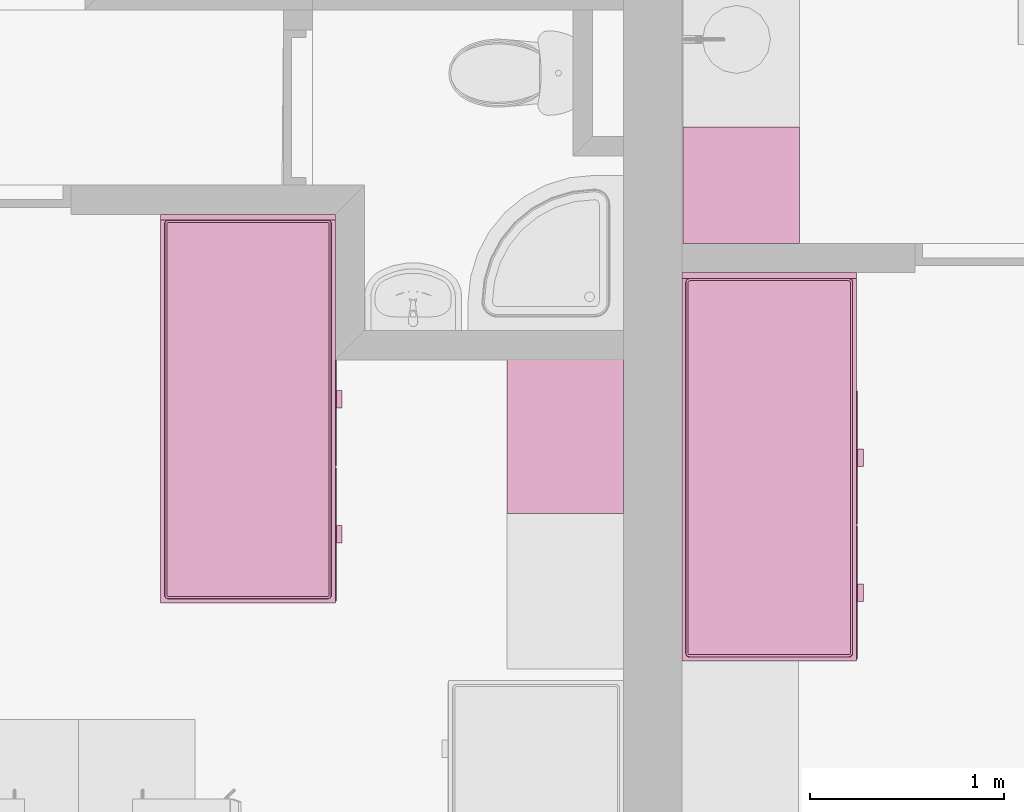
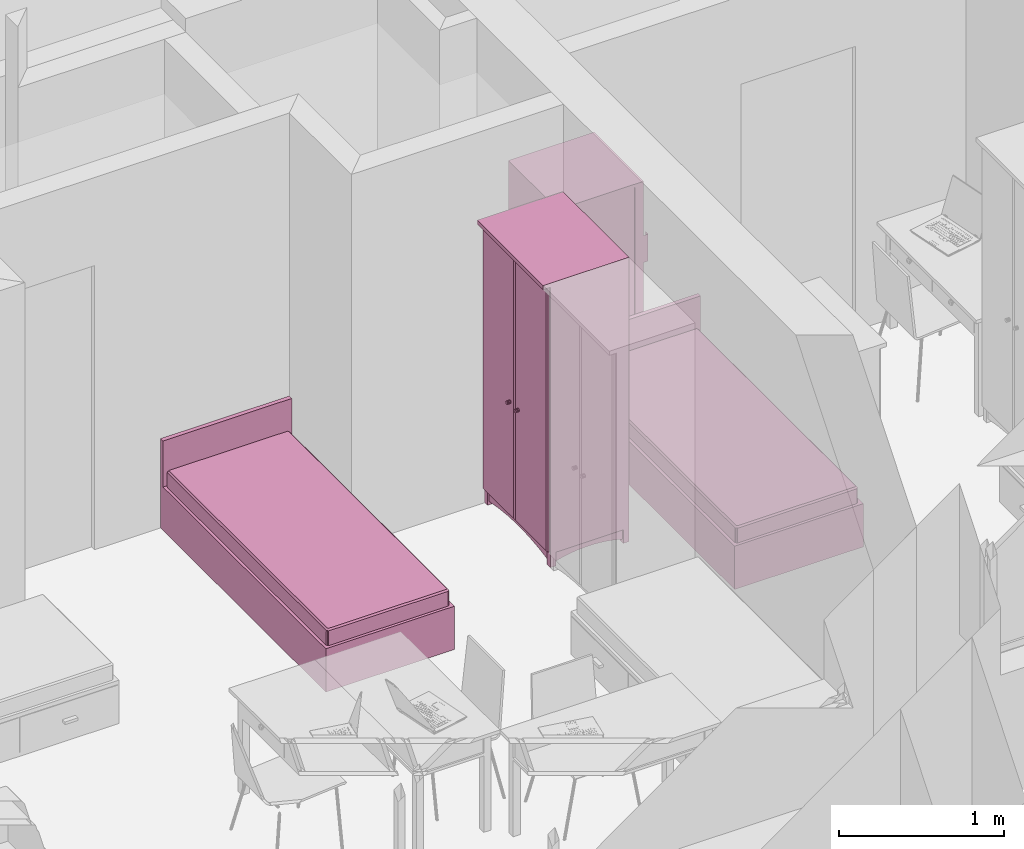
# One storey, part 77 of 172: 4 furnishings.
"""IFC2X3 building model written with IfcOpenShell, lengths in millimetres."""

from ifc_helpers import new_model, entity, si_unit, converted_unit, money_unit, direction, frame, origin_with_axes, place, context, subcontext, project, spatial, open_shell, faceted_brep, surface_model, source, transform, mapped, material, material_list, type_object, element, save


model = new_model("IFC2X3")

# Units and contexts
model_context = context("Model", 3, precision=1e-05, world=origin_with_axes(), true_north=direction((0.0, 1.0)))
body_context = subcontext(model_context, "Body", "Model", "MODEL_VIEW")
ifc_project = project(units=[si_unit("LENGTHUNIT", "METRE", prefix="MILLI"), si_unit("AREAUNIT", "SQUARE_METRE"), si_unit("VOLUMEUNIT", "CUBIC_METRE"), converted_unit("PLANEANGLEUNIT", "DEGREE", entity("IfcPlaneAngleMeasure", 0.0174532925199), si_unit("PLANEANGLEUNIT", "RADIAN"), dimensions=[0, 0, 0, 0, 0, 0, 0]), si_unit("SOLIDANGLEUNIT", "STERADIAN"), money_unit("USD"), converted_unit("TIMEUNIT", "Year", entity("IfcTimeMeasure", 31556926.0), si_unit("TIMEUNIT", "SECOND"), dimensions=[0, 0, 0, 0, 0, 0, 0]), si_unit("MASSUNIT", "GRAM"), si_unit("THERMODYNAMICTEMPERATUREUNIT", "DEGREE_CELSIUS"), si_unit("LUMINOUSINTENSITYUNIT", "LUMEN")], contexts=[model_context])

# Site, building, storey
site_placement = place(None, origin_with_axes())
site = spatial("IfcSite", under=ifc_project, at=site_placement, Name="Site", CompositionType="ELEMENT")
building_placement = place(site_placement, origin_with_axes())
building = spatial("IfcBuilding", under=site, at=building_placement, Name="Building", CompositionType="ELEMENT")
storey_placement = place(building_placement, frame((0.0, 0.0, 3200.0), z_axis=(0.0, 0.0, 1.0), x_axis=(1.0, 0.0, 0.0)))
storey = spatial("IfcBuildingStorey", under=building, at=storey_placement, Name="3KORRUS", CompositionType="ELEMENT", Elevation=3200.0)

# Furnishings
ifc_material = material(Name="Background")
ifc_material_list = material_list([ifc_material])
furnishing_element_type_1 = type_object("IfcFurnishingElementType", Name="Bed 19")
shared_shape_1 = source(origin_with_axes(), body_context, "Body", "Brep", [
    faceted_brep([(900.0, 1970.0, 0.0), (0.0, 1970.0, 0.0), (0.0, 2000.0, 0.0), (900.0, 2000.0, 0.0), (900.0, 1970.0, 660.0), (0.0, 1970.0, 660.0), (0.0, 2000.0, 660.0), (900.0, 2000.0, 660.0)], [[[0, 1, 2, 3]], [[1, 0, 4, 5]], [[2, 1, 5, 6]], [[3, 2, 6, 7]], [[0, 3, 7, 4]], [[5, 4, 7, 6]]]),
    faceted_brep([(900.0, 0.0, 0.0), (0.0, 0.0, 0.0), (0.0, 1970.0, 0.0), (900.0, 1970.0, 0.0), (900.0, 0.0, 320.0), (0.0, 0.0, 320.0), (0.0, 1970.0, 320.0), (900.0, 1970.0, 320.0)], [[[0, 1, 2, 3]], [[1, 0, 4, 5]], [[2, 1, 5, 6]], [[3, 2, 6, 7]], [[0, 3, 7, 4]], [[5, 4, 7, 6]]]),
    faceted_brep([(905.0, 10.0, 30.0), (900.0, 10.0, 30.0), (900.0, 695.0, 30.0), (905.0, 695.0, 30.0), (905.0, 10.0, 290.0), (900.0, 10.0, 290.0), (900.0, 695.0, 290.0), (905.0, 695.0, 290.0)], [[[0, 1, 2, 3]], [[1, 0, 4, 5]], [[2, 1, 5, 6]], [[3, 2, 6, 7]], [[0, 3, 7, 4]], [[5, 4, 7, 6]]]),
    faceted_brep([(935.0, 307.5, 150.0), (905.0, 307.5, 150.0), (905.0, 397.5, 150.0), (935.0, 397.5, 150.0), (935.0, 307.5, 170.0), (905.0, 307.5, 170.0), (905.0, 397.5, 170.0), (935.0, 397.5, 170.0)], [[[0, 1, 2, 3]], [[1, 0, 4, 5]], [[2, 1, 5, 6]], [[3, 2, 6, 7]], [[0, 3, 7, 4]], [[5, 4, 7, 6]]]),
    faceted_brep([(905.0, 705.0, 30.0), (900.0, 705.0, 30.0), (900.0, 1390.0, 30.0), (905.0, 1390.0, 30.0), (905.0, 705.0, 290.0), (900.0, 705.0, 290.0), (900.0, 1390.0, 290.0), (905.0, 1390.0, 290.0)], [[[0, 1, 2, 3]], [[1, 0, 4, 5]], [[2, 1, 5, 6]], [[3, 2, 6, 7]], [[0, 3, 7, 4]], [[5, 4, 7, 6]]]),
    faceted_brep([(935.0, 1002.5, 150.0), (905.0, 1002.5, 150.0), (905.0, 1092.5, 150.0), (935.0, 1092.5, 150.0), (935.0, 1002.5, 170.0), (905.0, 1002.5, 170.0), (905.0, 1092.5, 170.0), (935.0, 1092.5, 170.0)], [[[0, 1, 2, 3]], [[1, 0, 4, 5]], [[2, 1, 5, 6]], [[3, 2, 6, 7]], [[0, 3, 7, 4]], [[5, 4, 7, 6]]]),
    faceted_brep([(20.0, 40.0, 350.0), (20.0, 1950.0, 350.0), (21.522, 1957.654, 350.0), (25.858, 1964.142, 350.0), (32.346, 1968.478, 350.0), (40.0, 1970.0, 350.0), (860.0, 1970.0, 350.0), (867.654, 1968.478, 350.0), (874.142, 1964.142, 350.0), (878.478, 1957.654, 350.0), (880.0, 1950.0, 350.0), (880.0, 40.0, 350.0), (878.478, 32.346, 350.0), (874.142, 25.858, 350.0), (867.654, 21.522, 350.0), (860.0, 20.0, 350.0), (40.0, 20.0, 350.0), (32.346, 21.522, 350.0), (25.858, 25.858, 350.0), (21.522, 32.346, 350.0), (20.0, 40.0, 420.0), (20.0, 1950.0, 420.0), (21.522, 1957.654, 420.0), (25.858, 1964.142, 420.0), (32.346, 1968.478, 420.0), (40.0, 1970.0, 420.0), (860.0, 1970.0, 420.0), (867.654, 1968.478, 420.0), (874.142, 1964.142, 420.0), (878.478, 1957.654, 420.0), (880.0, 1950.0, 420.0), (880.0, 40.0, 420.0), (878.478, 32.346, 420.0), (874.142, 25.858, 420.0), (867.654, 21.522, 420.0), (860.0, 20.0, 420.0), (40.0, 20.0, 420.0), (32.346, 21.522, 420.0), (25.858, 25.858, 420.0), (21.522, 32.346, 420.0), (21.522, 40.15, 427.654), (21.522, 1949.85, 427.654), (22.956, 1957.06, 427.654), (26.955, 1963.045, 427.654), (32.94, 1967.044, 427.654), (40.15, 1968.478, 427.654), (859.85, 1968.478, 427.654), (867.06, 1967.044, 427.654), (873.045, 1963.045, 427.654), (877.044, 1957.06, 427.654), (878.478, 1949.85, 427.654), (878.478, 40.15, 427.654), (877.044, 32.94, 427.654), (873.045, 26.955, 427.654), (867.06, 22.956, 427.654), (859.85, 21.522, 427.654), (40.15, 21.522, 427.654), (32.94, 22.956, 427.654), (26.955, 26.955, 427.654), (22.956, 32.94, 427.654), (32.346, 41.216, 438.478), (32.346, 1948.784, 438.478), (33.152, 1952.836, 438.478), (34.759, 1955.241, 438.478), (37.164, 1956.848, 438.478), (41.216, 1957.654, 438.478), (858.784, 1957.654, 438.478), (862.836, 1956.848, 438.478), (865.241, 1955.241, 438.478), (866.848, 1952.836, 438.478), (867.654, 1948.784, 438.478), (867.654, 41.216, 438.478), (866.848, 37.164, 438.478), (865.241, 34.759, 438.478), (862.836, 33.152, 438.478), (858.784, 32.346, 438.478), (41.216, 32.346, 438.478), (37.164, 33.152, 438.478), (34.759, 34.759, 438.478), (33.152, 37.164, 438.478), (40.0, 41.97, 440.0), (40.0, 1948.03, 440.0), (40.327, 1949.673, 440.0), (40.0, 1950.0, 439.924), (41.97, 1950.0, 440.0), (858.03, 1950.0, 440.0), (859.673, 1949.673, 440.0), (860.0, 1950.0, 439.924), (860.0, 1948.03, 440.0), (860.0, 41.97, 440.0), (859.673, 40.327, 440.0), (860.0, 40.0, 439.924), (858.03, 40.0, 440.0), (41.97, 40.0, 440.0), (40.327, 40.327, 440.0), (40.0, 40.0, 439.924)], [[[0, 1, 2, 3, 4, 5, 6, 7, 8, 9, 10, 11, 12, 13, 14, 15, 16, 17, 18, 19]], [[1, 0, 20, 21]], [[2, 1, 21, 22]], [[3, 2, 22, 23]], [[4, 3, 23, 24]], [[5, 4, 24, 25]], [[6, 5, 25, 26]], [[7, 6, 26, 27]], [[8, 7, 27, 28]], [[9, 8, 28, 29]], [[10, 9, 29, 30]], [[11, 10, 30, 31]], [[12, 11, 31, 32]], [[13, 12, 32, 33]], [[14, 13, 33, 34]], [[15, 14, 34, 35]], [[16, 15, 35, 36]], [[17, 16, 36, 37]], [[18, 17, 37, 38]], [[19, 18, 38, 39]], [[0, 19, 39, 20]], [[21, 20, 40, 41]], [[22, 21, 41, 42]], [[23, 22, 42, 43]], [[24, 23, 43, 44]], [[25, 24, 44, 45]], [[26, 25, 45, 46]], [[27, 26, 46, 47]], [[28, 27, 47, 48]], [[29, 28, 48, 49]], [[30, 29, 49, 50]], [[31, 30, 50, 51]], [[32, 31, 51, 52]], [[33, 32, 52, 53]], [[34, 33, 53, 54]], [[35, 34, 54, 55]], [[36, 35, 55, 56]], [[37, 36, 56, 57]], [[38, 37, 57, 58]], [[39, 38, 58, 59]], [[20, 39, 59, 40]], [[41, 40, 60, 61]], [[42, 41, 61, 62]], [[43, 42, 62, 63]], [[44, 43, 63, 64]], [[45, 44, 64, 65]], [[46, 45, 65, 66]], [[47, 46, 66, 67]], [[48, 47, 67, 68]], [[49, 48, 68, 69]], [[50, 49, 69, 70]], [[51, 50, 70, 71]], [[52, 51, 71, 72]], [[53, 52, 72, 73]], [[54, 53, 73, 74]], [[55, 54, 74, 75]], [[56, 55, 75, 76]], [[57, 56, 76, 77]], [[58, 57, 77, 78]], [[59, 58, 78, 79]], [[40, 59, 79, 60]], [[61, 60, 80, 81]], [[62, 61, 81, 82, 83]], [[63, 62, 83]], [[64, 63, 83]], [[65, 64, 83, 82, 84]], [[66, 65, 84, 85]], [[67, 66, 85, 86, 87]], [[68, 67, 87]], [[69, 68, 87]], [[70, 69, 87, 86, 88]], [[71, 70, 88, 89]], [[72, 71, 89, 90, 91]], [[73, 72, 91]], [[74, 73, 91]], [[75, 74, 91, 90, 92]], [[76, 75, 92, 93]], [[77, 76, 93, 94, 95]], [[78, 77, 95]], [[79, 78, 95]], [[60, 79, 95, 94, 80]], [[81, 80, 94, 93, 92, 90, 89, 88, 86, 85, 84, 82]]]),
    faceted_brep([(20.0, 40.0, 350.0), (21.522, 32.346, 350.0), (25.858, 25.858, 350.0), (32.346, 21.522, 350.0), (40.0, 20.0, 350.0), (860.0, 20.0, 350.0), (867.654, 21.522, 350.0), (874.142, 25.858, 350.0), (878.478, 32.346, 350.0), (880.0, 40.0, 350.0), (880.0, 1950.0, 350.0), (878.478, 1957.654, 350.0), (874.142, 1964.142, 350.0), (867.654, 1968.478, 350.0), (860.0, 1970.0, 350.0), (40.0, 1970.0, 350.0), (32.346, 1968.478, 350.0), (25.858, 1964.142, 350.0), (21.522, 1957.654, 350.0), (20.0, 1950.0, 350.0), (20.0, 40.0, 320.0), (21.522, 32.346, 320.0), (25.858, 25.858, 320.0), (32.346, 21.522, 320.0), (40.0, 20.0, 320.0), (860.0, 20.0, 320.0), (867.654, 21.522, 320.0), (874.142, 25.858, 320.0), (878.478, 32.346, 320.0), (880.0, 40.0, 320.0), (880.0, 1950.0, 320.0), (878.478, 1957.654, 320.0), (874.142, 1964.142, 320.0), (867.654, 1968.478, 320.0), (860.0, 1970.0, 320.0), (40.0, 1970.0, 320.0), (32.346, 1968.478, 320.0), (25.858, 1964.142, 320.0), (21.522, 1957.654, 320.0), (20.0, 1950.0, 320.0)], [[[0, 1, 2, 3, 4, 5, 6, 7, 8, 9, 10, 11, 12, 13, 14, 15, 16, 17, 18, 19]], [[0, 20, 21, 1]], [[1, 21, 22, 2]], [[2, 22, 23, 3]], [[3, 23, 24, 4]], [[4, 24, 25, 5]], [[5, 25, 26, 6]], [[6, 26, 27, 7]], [[7, 27, 28, 8]], [[8, 28, 29, 9]], [[9, 29, 30, 10]], [[10, 30, 31, 11]], [[11, 31, 32, 12]], [[12, 32, 33, 13]], [[13, 33, 34, 14]], [[14, 34, 35, 15]], [[15, 35, 36, 16]], [[16, 36, 37, 17]], [[17, 37, 38, 18]], [[18, 38, 39, 19]], [[19, 39, 20, 0]], [[20, 39, 38, 37, 36, 35, 34, 33, 32, 31, 30, 29, 28, 27, 26, 25, 24, 23, 22, 21]]]),
])
for number, where, z_axis, x_axis, name in (
    (1, (-47990.2967033, -17439.2398994, 0.0), (0.0, 0.0, 1.0), (1.0, 0.0, 0.0), "FU - 013"),
    (2, (-50673.7651372, -17139.5106464, 0.0), (0.0, 0.0, 1.0), (1.0, 0.0, 0.0), "FU - 013"),
):
    element("IfcFurnishingElement", number, at=place(storey_placement, frame(where, z_axis=z_axis, x_axis=x_axis)), inside=storey, type_object=furnishing_element_type_1, material=ifc_material_list, Name=name, context=body_context, shape_type="MappedRepresentation", body=[
        mapped(shared_shape_1, transform((0.0, 0.0, 0.0))),
    ])
furnishing_element_type_2 = type_object("IfcFurnishingElementType", Name="Cupboard 19")
shared_shape_2 = source(origin_with_axes(), body_context, "Body", "Brep", [
    faceted_brep([(780.0, 600.0, 120.0), (780.0, 600.0, 2050.0), (780.0, 580.0, 2050.0), (780.0, 580.0, 120.0), (20.0, 600.0, 120.0), (20.0, 600.0, 2050.0), (20.0, 580.0, 2050.0), (20.0, 580.0, 120.0)], [[[0, 1, 2, 3]], [[4, 5, 1, 0]], [[1, 5, 6, 2]], [[3, 2, 6, 7]], [[0, 3, 7, 4]], [[7, 6, 5, 4]]]),
    faceted_brep([(0.0, 50.0, 100.0), (0.0, 600.0, 100.0), (20.0, 600.0, 100.0), (20.0, 50.0, 100.0), (0.0, 50.0, 2070.0), (0.0, 600.0, 2070.0), (20.0, 600.0, 2070.0), (20.0, 50.0, 2070.0)], [[[0, 1, 2, 3]], [[0, 4, 5, 1]], [[1, 5, 6, 2]], [[2, 6, 7, 3]], [[3, 7, 4, 0]], [[7, 6, 5, 4]]]),
    faceted_brep([(780.0, 50.0, 100.0), (780.0, 600.0, 100.0), (800.0, 600.0, 100.0), (800.0, 50.0, 100.0), (780.0, 50.0, 2070.0), (780.0, 600.0, 2070.0), (800.0, 600.0, 2070.0), (800.0, 50.0, 2070.0)], [[[0, 1, 2, 3]], [[0, 4, 5, 1]], [[1, 5, 6, 2]], [[2, 6, 7, 3]], [[3, 7, 4, 0]], [[7, 6, 5, 4]]]),
    faceted_brep([(20.0, 50.0, 100.0), (20.0, 600.0, 100.0), (780.0, 600.0, 100.0), (780.0, 50.0, 100.0), (20.0, 50.0, 120.0), (20.0, 600.0, 120.0), (780.0, 600.0, 120.0), (780.0, 50.0, 120.0)], [[[0, 1, 2, 3]], [[0, 4, 5, 1]], [[1, 5, 6, 2]], [[2, 6, 7, 3]], [[3, 7, 4, 0]], [[7, 6, 5, 4]]]),
    faceted_brep([(20.0, 50.0, 2050.0), (20.0, 600.0, 2050.0), (780.0, 600.0, 2050.0), (780.0, 50.0, 2050.0), (20.0, 50.0, 2070.0), (20.0, 600.0, 2070.0), (780.0, 600.0, 2070.0), (780.0, 50.0, 2070.0)], [[[0, 1, 2, 3]], [[0, 4, 5, 1]], [[1, 5, 6, 2]], [[2, 6, 7, 3]], [[3, 7, 4, 0]], [[7, 6, 5, 4]]]),
    faceted_brep([(0.0, 600.0, 2070.0), (0.0, 0.0, 2070.0), (0.0, 0.0, 2100.0), (0.0, 600.0, 2100.0), (800.0, 600.0, 2070.0), (800.0, 0.0, 2070.0), (800.0, 0.0, 2100.0), (800.0, 600.0, 2100.0)], [[[0, 1, 2, 3]], [[0, 4, 5, 1]], [[1, 5, 6, 2]], [[3, 2, 6, 7]], [[4, 0, 3, 7]], [[5, 4, 7, 6]]]),
    faceted_brep([(760.0, 590.0, 25.0), (760.0, 570.0, 25.0), (640.962, 570.0, 45.8), (640.962, 590.0, 45.8), (760.0, 590.0, 100.0), (760.0, 570.0, 100.0), (40.0, 570.0, 100.0), (40.0, 570.0, 25.0), (159.038, 570.0, 45.8), (279.23, 570.0, 58.32), (400.0, 570.0, 62.5), (520.77, 570.0, 58.32), (520.77, 590.0, 58.32), (400.0, 590.0, 62.5), (279.23, 590.0, 58.32), (159.038, 590.0, 45.8), (40.0, 590.0, 25.0), (40.0, 590.0, 100.0)], [[[0, 1, 2, 3]], [[4, 5, 1, 0]], [[1, 5, 6, 7, 8, 9, 10, 11, 2]], [[3, 2, 11, 12]], [[0, 3, 12, 13, 14, 15, 16, 17, 4]], [[17, 6, 5, 4]], [[16, 7, 6, 17]], [[15, 8, 7, 16]], [[14, 9, 8, 15]], [[13, 10, 9, 14]], [[12, 11, 10, 13]]]),
    faceted_brep([(760.0, 80.0, 25.0), (760.0, 60.0, 25.0), (640.962, 60.0, 45.8), (640.962, 80.0, 45.8), (760.0, 80.0, 100.0), (760.0, 60.0, 100.0), (40.0, 60.0, 100.0), (40.0, 60.0, 25.0), (159.038, 60.0, 45.8), (279.23, 60.0, 58.32), (400.0, 60.0, 62.5), (520.77, 60.0, 58.32), (520.77, 80.0, 58.32), (400.0, 80.0, 62.5), (279.23, 80.0, 58.32), (159.038, 80.0, 45.8), (40.0, 80.0, 25.0), (40.0, 80.0, 100.0)], [[[0, 1, 2, 3]], [[4, 5, 1, 0]], [[1, 5, 6, 7, 8, 9, 10, 11, 2]], [[3, 2, 11, 12]], [[0, 3, 12, 13, 14, 15, 16, 17, 4]], [[17, 6, 5, 4]], [[16, 7, 6, 17]], [[15, 8, 7, 16]], [[14, 9, 8, 15]], [[13, 10, 9, 14]], [[12, 11, 10, 13]]]),
    faceted_brep([(790.0, 90.0, 25.0), (770.0, 90.0, 25.0), (770.0, 141.266, 38.072), (790.0, 141.266, 38.072), (790.0, 90.0, 100.0), (770.0, 90.0, 100.0), (770.0, 560.0, 100.0), (770.0, 560.0, 25.0), (770.0, 508.734, 38.072), (770.0, 456.752, 47.92), (770.0, 404.257, 54.508), (770.0, 351.453, 57.808), (770.0, 298.547, 57.808), (770.0, 245.743, 54.508), (770.0, 193.248, 47.92), (790.0, 193.248, 47.92), (790.0, 245.743, 54.508), (790.0, 298.547, 57.808), (790.0, 351.453, 57.808), (790.0, 404.257, 54.508), (790.0, 456.752, 47.92), (790.0, 508.734, 38.072), (790.0, 560.0, 25.0), (790.0, 560.0, 100.0)], [[[0, 1, 2, 3]], [[4, 5, 1, 0]], [[1, 5, 6, 7, 8, 9, 10, 11, 12, 13, 14, 2]], [[3, 2, 14, 15]], [[0, 3, 15, 16, 17, 18, 19, 20, 21, 22, 23, 4]], [[23, 6, 5, 4]], [[22, 7, 6, 23]], [[21, 8, 7, 22]], [[20, 9, 8, 21]], [[19, 10, 9, 20]], [[18, 11, 10, 19]], [[17, 12, 11, 18]], [[16, 13, 12, 17]], [[15, 14, 13, 16]]]),
    faceted_brep([(30.0, 90.0, 25.0), (10.0, 90.0, 25.0), (10.0, 141.266, 38.072), (30.0, 141.266, 38.072), (30.0, 90.0, 100.0), (10.0, 90.0, 100.0), (10.0, 560.0, 100.0), (10.0, 560.0, 25.0), (10.0, 508.734, 38.072), (10.0, 456.752, 47.92), (10.0, 404.257, 54.508), (10.0, 351.453, 57.808), (10.0, 298.547, 57.808), (10.0, 245.743, 54.508), (10.0, 193.248, 47.92), (30.0, 193.248, 47.92), (30.0, 245.743, 54.508), (30.0, 298.547, 57.808), (30.0, 351.453, 57.808), (30.0, 404.257, 54.508), (30.0, 456.752, 47.92), (30.0, 508.734, 38.072), (30.0, 560.0, 25.0), (30.0, 560.0, 100.0)], [[[0, 1, 2, 3]], [[4, 5, 1, 0]], [[1, 5, 6, 7, 8, 9, 10, 11, 12, 13, 14, 2]], [[3, 2, 14, 15]], [[0, 3, 15, 16, 17, 18, 19, 20, 21, 22, 23, 4]], [[23, 6, 5, 4]], [[22, 7, 6, 23]], [[21, 8, 7, 22]], [[20, 9, 8, 21]], [[19, 10, 9, 20]], [[18, 11, 10, 19]], [[17, 12, 11, 18]], [[16, 13, 12, 17]], [[15, 14, 13, 16]]]),
    faceted_brep([(760.0, 560.0, 0.0), (760.0, 560.0, 100.0), (760.0, 600.0, 100.0), (760.0, 600.0, 0.0), (800.0, 560.0, 0.0), (800.0, 560.0, 100.0), (800.0, 600.0, 100.0), (800.0, 600.0, 0.0)], [[[0, 1, 2, 3]], [[4, 5, 1, 0]], [[1, 5, 6, 2]], [[3, 2, 6, 7]], [[0, 3, 7, 4]], [[7, 6, 5, 4]]]),
    faceted_brep([(0.0, 560.0, 0.0), (0.0, 560.0, 100.0), (0.0, 600.0, 100.0), (0.0, 600.0, 0.0), (40.0, 560.0, 0.0), (40.0, 560.0, 100.0), (40.0, 600.0, 100.0), (40.0, 600.0, 0.0)], [[[0, 1, 2, 3]], [[4, 5, 1, 0]], [[1, 5, 6, 2]], [[3, 2, 6, 7]], [[0, 3, 7, 4]], [[7, 6, 5, 4]]]),
    faceted_brep([(760.0, 50.0, 0.0), (760.0, 50.0, 100.0), (760.0, 90.0, 100.0), (760.0, 90.0, 0.0), (800.0, 50.0, 0.0), (800.0, 50.0, 100.0), (800.0, 90.0, 100.0), (800.0, 90.0, 0.0)], [[[0, 1, 2, 3]], [[4, 5, 1, 0]], [[1, 5, 6, 2]], [[3, 2, 6, 7]], [[0, 3, 7, 4]], [[7, 6, 5, 4]]]),
    faceted_brep([(0.0, 50.0, 0.0), (0.0, 50.0, 100.0), (0.0, 90.0, 100.0), (0.0, 90.0, 0.0), (40.0, 50.0, 0.0), (40.0, 50.0, 100.0), (40.0, 90.0, 100.0), (40.0, 90.0, 0.0)], [[[0, 1, 2, 3]], [[4, 5, 1, 0]], [[1, 5, 6, 2]], [[3, 2, 6, 7]], [[0, 3, 7, 4]], [[7, 6, 5, 4]]]),
    faceted_brep([(780.0, 580.0, 587.5), (780.0, 580.0, 607.5), (780.0, 50.0, 607.5), (780.0, 50.0, 587.5), (20.0, 580.0, 587.5), (20.0, 580.0, 607.5), (20.0, 50.0, 607.5), (20.0, 50.0, 587.5)], [[[0, 1, 2, 3]], [[4, 5, 1, 0]], [[1, 5, 6, 2]], [[3, 2, 6, 7]], [[0, 3, 7, 4]], [[7, 6, 5, 4]]]),
    faceted_brep([(780.0, 580.0, 1075.0), (780.0, 580.0, 1095.0), (780.0, 50.0, 1095.0), (780.0, 50.0, 1075.0), (20.0, 580.0, 1075.0), (20.0, 580.0, 1095.0), (20.0, 50.0, 1095.0), (20.0, 50.0, 1075.0)], [[[0, 1, 2, 3]], [[4, 5, 1, 0]], [[1, 5, 6, 2]], [[3, 2, 6, 7]], [[0, 3, 7, 4]], [[7, 6, 5, 4]]]),
    faceted_brep([(780.0, 580.0, 1562.5), (780.0, 580.0, 1582.5), (780.0, 50.0, 1582.5), (780.0, 50.0, 1562.5), (20.0, 580.0, 1562.5), (20.0, 580.0, 1582.5), (20.0, 50.0, 1582.5), (20.0, 50.0, 1562.5)], [[[0, 1, 2, 3]], [[4, 5, 1, 0]], [[1, 5, 6, 2]], [[3, 2, 6, 7]], [[0, 3, 7, 4]], [[7, 6, 5, 4]]]),
    faceted_brep([(789.5, 50.0, 110.5), (400.5, 50.0, 110.5), (400.5, 50.0, 2059.5), (789.5, 50.0, 2059.5), (789.5, 40.0, 110.5), (400.5, 40.0, 110.5), (400.5, 40.0, 2059.5), (789.5, 40.0, 2059.5), (779.5, 30.0, 120.5), (410.5, 30.0, 120.5), (410.5, 30.0, 2049.5), (779.5, 30.0, 2049.5)], [[[0, 1, 2, 3]], [[0, 4, 5, 1]], [[1, 5, 6, 2]], [[2, 6, 7, 3]], [[3, 7, 4, 0]], [[4, 8, 9, 5]], [[5, 9, 10, 6]], [[6, 10, 11, 7]], [[7, 11, 8, 4]], [[10, 9, 8, 11]]]),
    faceted_brep([(399.5, 50.0, 110.5), (10.5, 50.0, 110.5), (10.5, 50.0, 2059.5), (399.5, 50.0, 2059.5), (399.5, 40.0, 110.5), (10.5, 40.0, 110.5), (10.5, 40.0, 2059.5), (399.5, 40.0, 2059.5), (389.5, 30.0, 120.5), (20.5, 30.0, 120.5), (20.5, 30.0, 2049.5), (389.5, 30.0, 2049.5)], [[[0, 1, 2, 3]], [[0, 4, 5, 1]], [[1, 5, 6, 2]], [[2, 6, 7, 3]], [[3, 7, 4, 0]], [[4, 8, 9, 5]], [[5, 9, 10, 6]], [[6, 10, 11, 7]], [[7, 11, 8, 4]], [[10, 9, 8, 11]]]),
    faceted_brep([(339.608, 30.0, 954.0), (338.0, 30.0, 960.0), (339.608, 30.0, 966.0), (344.0, 30.0, 970.392), (350.0, 30.0, 972.0), (356.0, 30.0, 970.392), (360.392, 30.0, 966.0), (362.0, 30.0, 960.0), (360.392, 30.0, 954.0), (356.0, 30.0, 949.608), (350.0, 30.0, 948.0), (344.0, 30.0, 949.608), (339.608, 5.0, 954.0), (338.0, 5.0, 960.0), (339.608, 5.0, 966.0), (344.0, 5.0, 970.392), (350.0, 5.0, 972.0), (356.0, 5.0, 970.392), (360.392, 5.0, 966.0), (362.0, 5.0, 960.0), (360.392, 5.0, 954.0), (356.0, 5.0, 949.608), (350.0, 5.0, 948.0), (344.0, 5.0, 949.608)], [[[0, 1, 2, 3, 4, 5, 6, 7, 8, 9, 10, 11]], [[0, 12, 13, 1]], [[1, 13, 14, 2]], [[2, 14, 15, 3]], [[3, 15, 16, 4]], [[4, 16, 17, 5]], [[5, 17, 18, 6]], [[6, 18, 19, 7]], [[7, 19, 20, 8]], [[8, 20, 21, 9]], [[9, 21, 22, 10]], [[10, 22, 23, 11]], [[11, 23, 12, 0]], [[12, 23, 22, 21, 20, 19, 18, 17, 16, 15, 14, 13]]]),
    faceted_brep([(460.392, 30.0, 954.0), (456.0, 30.0, 949.608), (450.0, 30.0, 948.0), (444.0, 30.0, 949.608), (439.608, 30.0, 954.0), (438.0, 30.0, 960.0), (439.608, 30.0, 966.0), (444.0, 30.0, 970.392), (450.0, 30.0, 972.0), (456.0, 30.0, 970.392), (460.392, 30.0, 966.0), (462.0, 30.0, 960.0), (460.392, 5.0, 954.0), (456.0, 5.0, 949.608), (450.0, 5.0, 948.0), (444.0, 5.0, 949.608), (439.608, 5.0, 954.0), (438.0, 5.0, 960.0), (439.608, 5.0, 966.0), (444.0, 5.0, 970.392), (450.0, 5.0, 972.0), (456.0, 5.0, 970.392), (460.392, 5.0, 966.0), (462.0, 5.0, 960.0)], [[[0, 1, 2, 3, 4, 5, 6, 7, 8, 9, 10, 11]], [[1, 0, 12, 13]], [[2, 1, 13, 14]], [[3, 2, 14, 15]], [[4, 3, 15, 16]], [[5, 4, 16, 17]], [[6, 5, 17, 18]], [[7, 6, 18, 19]], [[8, 7, 19, 20]], [[9, 8, 20, 21]], [[10, 9, 21, 22]], [[11, 10, 22, 23]], [[0, 11, 23, 12]], [[12, 23, 22, 21, 20, 19, 18, 17, 16, 15, 14, 13]]]),
])
furnishing_1_placement = place(storey_placement, frame((-48890.2967033, -15880.9451777, 0.0), z_axis=(0.0, 0.0, 1.0), x_axis=(0.0, -1.0, 0.0)))
element("IfcFurnishingElement", 3, at=furnishing_1_placement, inside=storey, type_object=furnishing_element_type_2, material=ifc_material_list, Name="FU - 014", context=body_context, shape_type="MappedRepresentation", body=[
    mapped(shared_shape_2, transform((0.0, 0.0, 0.0))),
])
furnishing_element_type_3 = type_object("IfcFurnishingElementType", Name="Refrigerator 19")
shared_shape_3 = source(origin_with_axes(), body_context, "Body", "SurfaceModel", [
    faceted_brep([(0.0, 0.0, 1475.0), (0.0, 0.0, 1500.0), (-600.0, 0.0, 1500.0), (-600.0, 0.0, 1475.0), (0.0, 600.0, 1475.0), (0.0, 600.0, 1500.0), (-600.0, 600.0, 1500.0), (-600.0, 600.0, 1475.0)], [[[0, 1, 2, 3]], [[4, 5, 1, 0]], [[1, 5, 6, 2]], [[3, 2, 6, 7]], [[0, 3, 7, 4]], [[7, 6, 5, 4]]]),
    faceted_brep([(0.0, 65.0, 0.0), (0.0, 65.0, 1475.0), (-600.0, 65.0, 1475.0), (-600.0, 65.0, 0.0), (0.0, 600.0, 0.0), (0.0, 600.0, 1475.0), (-600.0, 600.0, 1475.0), (-600.0, 600.0, 0.0)], [[[0, 1, 2, 3]], [[4, 5, 1, 0]], [[1, 5, 6, 2]], [[3, 2, 6, 7]], [[0, 3, 7, 4]], [[7, 6, 5, 4]]]),
    faceted_brep([(0.0, 30.0, 0.0), (0.0, 30.0, 90.0), (-600.0, 30.0, 90.0), (-600.0, 30.0, 0.0), (0.0, 60.0, 0.0), (0.0, 60.0, 90.0), (-600.0, 60.0, 90.0), (-600.0, 60.0, 0.0)], [[[0, 1, 2, 3]], [[4, 5, 1, 0]], [[1, 5, 6, 2]], [[3, 2, 6, 7]], [[0, 3, 7, 4]], [[7, 6, 5, 4]]]),
    faceted_brep([(0.0, 60.0, 90.0), (0.0, 0.0, 90.0), (-600.0, 0.0, 90.0), (-600.0, 60.0, 90.0), (0.0, 60.0, 1474.5), (0.0, 0.0, 1474.5), (-600.0, 0.0, 1474.5), (-600.0, 60.0, 1474.5)], [[[0, 1, 2, 3]], [[4, 5, 1, 0]], [[1, 5, 6, 2]], [[3, 2, 6, 7]], [[0, 3, 7, 4]], [[7, 6, 5, 4]]]),
    surface_model("IfcShellBasedSurfaceModel", [(-600.0, -30.0, 900.0), (-600.0, 0.0, 900.0), (-600.0, 0.0, 1100.0), (-600.0, -30.0, 1100.0)], [open_shell([[[0, 1, 2, 3]]])]),
    surface_model("IfcShellBasedSurfaceModel", [(-600.0, -30.0, 900.0), (-570.0, -30.0, 900.0), (-570.0, -30.0, 1100.0), (-600.0, -30.0, 1100.0)], [open_shell([[[0, 1, 2, 3]]])]),
])
furnishing_2_placement = place(storey_placement, frame((-47384.008308, -14689.2398994, 0.0), z_axis=(0.0, 0.0, 1.0), x_axis=(0.0, 1.0, 0.0)))
element("IfcFurnishingElement", 4, at=furnishing_2_placement, inside=storey, type_object=furnishing_element_type_3, material=ifc_material_list, Name="FU - 007", context=body_context, shape_type="MappedRepresentation", body=[
    mapped(shared_shape_3, transform((0.0, 0.0, 0.0))),
])

save(model, "model.ifc")
